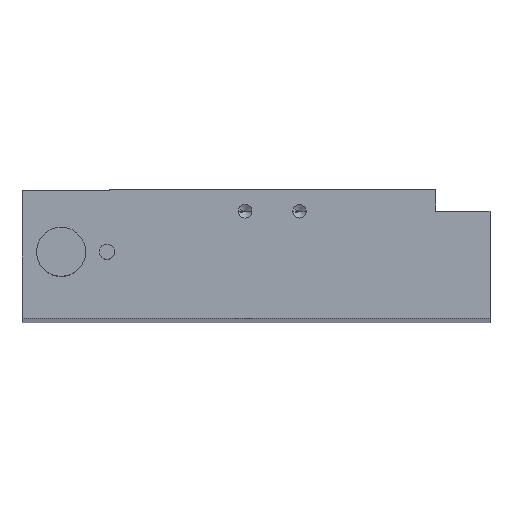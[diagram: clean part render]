
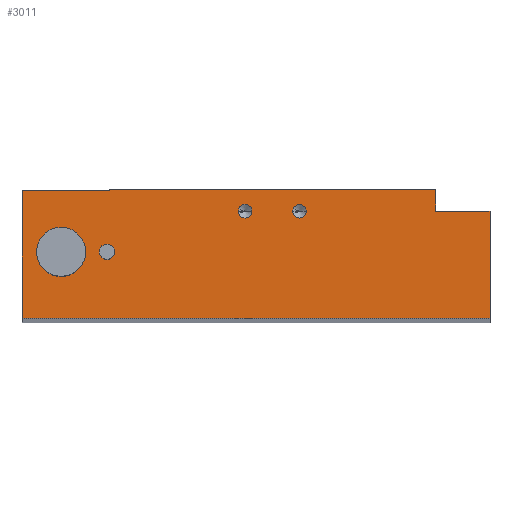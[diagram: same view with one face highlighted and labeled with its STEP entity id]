
A CAD part, top view. The second image highlights one B-rep face of the part: STEP entity #3011.
In plain terms, the highlighted planar face has unit normal (0, 0, 1).
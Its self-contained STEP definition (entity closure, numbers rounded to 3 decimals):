
#38 = EDGE_LOOP ( 'NONE', ( #1563, #1991 ) ) ;
#46 = EDGE_CURVE ( 'NONE', #2790, #998, #1480, .T. ) ;
#57 = CIRCLE ( 'NONE', #2403, 4.5 ) ;
#97 = ORIENTED_EDGE ( 'NONE', *, *, #1964, .F. ) ;
#110 = EDGE_CURVE ( 'NONE', #1118, #147, #1993, .T. ) ;
#147 = VERTEX_POINT ( 'NONE', #3044 ) ;
#148 = DIRECTION ( 'NONE',  ( 0., 0., 1. ) ) ;
#171 = FACE_BOUND ( 'NONE', #218, .T. ) ;
#187 = CARTESIAN_POINT ( 'NONE',  ( 690.381, 433.782, 0. ) ) ;
#218 = EDGE_LOOP ( 'NONE', ( #914, #450 ) ) ;
#223 = AXIS2_PLACEMENT_3D ( 'NONE', #2644, #396, #1908 ) ;
#233 = ORIENTED_EDGE ( 'NONE', *, *, #384, .F. ) ;
#253 = LINE ( 'NONE', #1694, #1591 ) ;
#277 = CARTESIAN_POINT ( 'NONE',  ( 727.031, 441.282, 0. ) ) ;
#285 = VECTOR ( 'NONE', #1691, 1000. ) ;
#347 = AXIS2_PLACEMENT_3D ( 'NONE', #2121, #394, #2583 ) ;
#356 = VERTEX_POINT ( 'NONE', #1272 ) ;
#377 = VECTOR ( 'NONE', #1632, 1000. ) ;
#384 = EDGE_CURVE ( 'NONE', #1886, #1006, #3208, .T. ) ;
#388 = CARTESIAN_POINT ( 'NONE',  ( 677.481, 433.782, 0. ) ) ;
#394 = DIRECTION ( 'NONE',  ( 0., 0., 1. ) ) ;
#396 = DIRECTION ( 'NONE',  ( 0., 0., 1. ) ) ;
#409 = CARTESIAN_POINT ( 'NONE',  ( 681.981, 433.782, 0. ) ) ;
#434 = EDGE_CURVE ( 'NONE', #2869, #869, #1064, .T. ) ;
#450 = ORIENTED_EDGE ( 'NONE', *, *, #2858, .F. ) ;
#468 = LINE ( 'NONE', #2453, #2383 ) ;
#478 = EDGE_CURVE ( 'NONE', #2417, #1118, #2890, .T. ) ;
#495 = DIRECTION ( 'NONE',  ( 1., 0., 0. ) ) ;
#507 = CARTESIAN_POINT ( 'NONE',  ( 674.781, 445.082, 0. ) ) ;
#543 = EDGE_LOOP ( 'NONE', ( #1549, #233 ) ) ;
#565 = EDGE_CURVE ( 'NONE', #762, #3090, #598, .T. ) ;
#586 = CARTESIAN_POINT ( 'NONE',  ( 674.781, 421.582, 0. ) ) ;
#598 = LINE ( 'NONE', #2753, #1268 ) ;
#622 = CARTESIAN_POINT ( 'NONE',  ( 674.781, 445.082, 0. ) ) ;
#641 = CARTESIAN_POINT ( 'NONE',  ( 750.781, 445.282, 0. ) ) ;
#653 = CARTESIAN_POINT ( 'NONE',  ( 690.781, 445.282, 0. ) ) ;
#655 = PLANE ( 'NONE',  #223 ) ;
#708 = CARTESIAN_POINT ( 'NONE',  ( 715.781, 441.282, 0. ) ) ;
#760 = DIRECTION ( 'NONE',  ( 1., 0., 0. ) ) ;
#762 = VERTEX_POINT ( 'NONE', #586 ) ;
#763 = FACE_OUTER_BOUND ( 'NONE', #2325, .T. ) ;
#827 = CARTESIAN_POINT ( 'NONE',  ( 681.981, 433.782, 0. ) ) ;
#834 = CARTESIAN_POINT ( 'NONE',  ( 750.781, 445.282, 0. ) ) ;
#835 = FACE_BOUND ( 'NONE', #2062, .T. ) ;
#869 = VERTEX_POINT ( 'NONE', #2157 ) ;
#912 = DIRECTION ( 'NONE',  ( 1., 0., 0. ) ) ;
#914 = ORIENTED_EDGE ( 'NONE', *, *, #1049, .F. ) ;
#930 = DIRECTION ( 'NONE',  ( 0., -1., 0. ) ) ;
#940 = LINE ( 'NONE', #981, #285 ) ;
#946 = DIRECTION ( 'NONE',  ( 0., 0., 1. ) ) ;
#966 = DIRECTION ( 'NONE',  ( 0., 0., 1. ) ) ;
#981 = CARTESIAN_POINT ( 'NONE',  ( 760.781, 441.282, 0. ) ) ;
#998 = VERTEX_POINT ( 'NONE', #2601 ) ;
#1006 = VERTEX_POINT ( 'NONE', #388 ) ;
#1049 = EDGE_CURVE ( 'NONE', #3078, #2927, #2278, .T. ) ;
#1061 = EDGE_CURVE ( 'NONE', #3090, #2173, #940, .T. ) ;
#1064 = CIRCLE ( 'NONE', #347, 1.25 ) ;
#1088 = ORIENTED_EDGE ( 'NONE', *, *, #2069, .T. ) ;
#1118 = VERTEX_POINT ( 'NONE', #641 ) ;
#1202 = CARTESIAN_POINT ( 'NONE',  ( 760.781, 441.282, 0. ) ) ;
#1204 = EDGE_CURVE ( 'NONE', #1006, #1886, #57, .T. ) ;
#1237 = AXIS2_PLACEMENT_3D ( 'NONE', #2388, #946, #2895 ) ;
#1243 = CARTESIAN_POINT ( 'NONE',  ( 750.781, 441.282, 0. ) ) ;
#1265 = AXIS2_PLACEMENT_3D ( 'NONE', #2971, #1483, #3219 ) ;
#1268 = VECTOR ( 'NONE', #760, 1000. ) ;
#1272 = CARTESIAN_POINT ( 'NONE',  ( 690.781, 445.09, 0. ) ) ;
#1314 = AXIS2_PLACEMENT_3D ( 'NONE', #708, #2395, #1441 ) ;
#1350 = ORIENTED_EDGE ( 'NONE', *, *, #1061, .T. ) ;
#1402 = CARTESIAN_POINT ( 'NONE',  ( 691.781, 433.782, 0. ) ) ;
#1428 = ORIENTED_EDGE ( 'NONE', *, *, #1624, .T. ) ;
#1441 = DIRECTION ( 'NONE',  ( 1., 0., 0. ) ) ;
#1466 = AXIS2_PLACEMENT_3D ( 'NONE', #187, #2227, #495 ) ;
#1480 = CIRCLE ( 'NONE', #1314, 1.25 ) ;
#1483 = DIRECTION ( 'NONE',  ( 0., 0., 1. ) ) ;
#1518 = FACE_BOUND ( 'NONE', #38, .T. ) ;
#1549 = ORIENTED_EDGE ( 'NONE', *, *, #1204, .F. ) ;
#1563 = ORIENTED_EDGE ( 'NONE', *, *, #434, .F. ) ;
#1572 = CARTESIAN_POINT ( 'NONE',  ( 717.031, 441.282, 0. ) ) ;
#1591 = VECTOR ( 'NONE', #3205, 1000. ) ;
#1624 = EDGE_CURVE ( 'NONE', #147, #356, #468, .T. ) ;
#1632 = DIRECTION ( 'NONE',  ( -1., 0., 0. ) ) ;
#1645 = DIRECTION ( 'NONE',  ( -1., 0., 0. ) ) ;
#1691 = DIRECTION ( 'NONE',  ( 0., 1., 0. ) ) ;
#1694 = CARTESIAN_POINT ( 'NONE',  ( 674.781, 445.082, 0. ) ) ;
#1716 = AXIS2_PLACEMENT_3D ( 'NONE', #2406, #148, #1914 ) ;
#1783 = VERTEX_POINT ( 'NONE', #507 ) ;
#1835 = ORIENTED_EDGE ( 'NONE', *, *, #478, .T. ) ;
#1886 = VERTEX_POINT ( 'NONE', #3048 ) ;
#1908 = DIRECTION ( 'NONE',  ( 1., 0., 0. ) ) ;
#1914 = DIRECTION ( 'NONE',  ( 1., 0., 0. ) ) ;
#1964 = EDGE_CURVE ( 'NONE', #998, #2790, #2256, .T. ) ;
#1991 = ORIENTED_EDGE ( 'NONE', *, *, #2382, .F. ) ;
#1993 = LINE ( 'NONE', #653, #3158 ) ;
#2024 = DIRECTION ( 'NONE',  ( 1., 0., 0. ) ) ;
#2028 = FACE_BOUND ( 'NONE', #543, .T. ) ;
#2062 = EDGE_LOOP ( 'NONE', ( #2246, #97 ) ) ;
#2069 = EDGE_CURVE ( 'NONE', #2173, #2417, #2296, .T. ) ;
#2121 = CARTESIAN_POINT ( 'NONE',  ( 725.781, 441.282, 0. ) ) ;
#2150 = DIRECTION ( 'NONE',  ( 0., 1., 0. ) ) ;
#2157 = CARTESIAN_POINT ( 'NONE',  ( 724.531, 441.282, 0. ) ) ;
#2173 = VERTEX_POINT ( 'NONE', #1202 ) ;
#2224 = VECTOR ( 'NONE', #2150, 1000. ) ;
#2227 = DIRECTION ( 'NONE',  ( 0., 0., 1. ) ) ;
#2246 = ORIENTED_EDGE ( 'NONE', *, *, #46, .F. ) ;
#2256 = CIRCLE ( 'NONE', #1716, 1.25 ) ;
#2269 = VECTOR ( 'NONE', #2362, 1000. ) ;
#2272 = CARTESIAN_POINT ( 'NONE',  ( 750.781, 441.282, 0. ) ) ;
#2278 = CIRCLE ( 'NONE', #1237, 1.4 ) ;
#2296 = LINE ( 'NONE', #2272, #377 ) ;
#2325 = EDGE_LOOP ( 'NONE', ( #1835, #2916, #1428, #2949, #2757, #3041, #1350, #1088 ) ) ;
#2362 = DIRECTION ( 'NONE',  ( -1., 0., 0. ) ) ;
#2382 = EDGE_CURVE ( 'NONE', #869, #2869, #2517, .T. ) ;
#2383 = VECTOR ( 'NONE', #930, 1000. ) ;
#2388 = CARTESIAN_POINT ( 'NONE',  ( 690.381, 433.782, 0. ) ) ;
#2395 = DIRECTION ( 'NONE',  ( 0., 0., 1. ) ) ;
#2403 = AXIS2_PLACEMENT_3D ( 'NONE', #409, #966, #2024 ) ;
#2406 = CARTESIAN_POINT ( 'NONE',  ( 715.781, 441.282, 0. ) ) ;
#2417 = VERTEX_POINT ( 'NONE', #1243 ) ;
#2453 = CARTESIAN_POINT ( 'NONE',  ( 690.781, 445.282, 0. ) ) ;
#2462 = EDGE_CURVE ( 'NONE', #356, #1783, #2929, .T. ) ;
#2517 = CIRCLE ( 'NONE', #1265, 1.25 ) ;
#2565 = CIRCLE ( 'NONE', #1466, 1.4 ) ;
#2583 = DIRECTION ( 'NONE',  ( 1., 0., 0. ) ) ;
#2601 = CARTESIAN_POINT ( 'NONE',  ( 714.531, 441.282, 0. ) ) ;
#2644 = CARTESIAN_POINT ( 'NONE',  ( 750.781, 441.282, 0. ) ) ;
#2753 = CARTESIAN_POINT ( 'NONE',  ( 674.781, 421.582, 0. ) ) ;
#2757 = ORIENTED_EDGE ( 'NONE', *, *, #2960, .T. ) ;
#2790 = VERTEX_POINT ( 'NONE', #1572 ) ;
#2824 = DIRECTION ( 'NONE',  ( 0., 0., 1. ) ) ;
#2858 = EDGE_CURVE ( 'NONE', #2927, #3078, #2565, .T. ) ;
#2869 = VERTEX_POINT ( 'NONE', #277 ) ;
#2890 = LINE ( 'NONE', #834, #2224 ) ;
#2895 = DIRECTION ( 'NONE',  ( 1., 0., 0. ) ) ;
#2916 = ORIENTED_EDGE ( 'NONE', *, *, #110, .T. ) ;
#2918 = AXIS2_PLACEMENT_3D ( 'NONE', #827, #2824, #912 ) ;
#2927 = VERTEX_POINT ( 'NONE', #1402 ) ;
#2929 = LINE ( 'NONE', #622, #2269 ) ;
#2949 = ORIENTED_EDGE ( 'NONE', *, *, #2462, .T. ) ;
#2960 = EDGE_CURVE ( 'NONE', #1783, #762, #253, .T. ) ;
#2971 = CARTESIAN_POINT ( 'NONE',  ( 725.781, 441.282, 0. ) ) ;
#3011 = ADVANCED_FACE ( 'NONE', ( #835, #1518, #171, #2028, #763 ), #655, .T. ) ;
#3041 = ORIENTED_EDGE ( 'NONE', *, *, #565, .T. ) ;
#3044 = CARTESIAN_POINT ( 'NONE',  ( 690.781, 445.282, 0. ) ) ;
#3048 = CARTESIAN_POINT ( 'NONE',  ( 686.481, 433.782, 0. ) ) ;
#3078 = VERTEX_POINT ( 'NONE', #3107 ) ;
#3090 = VERTEX_POINT ( 'NONE', #3115 ) ;
#3107 = CARTESIAN_POINT ( 'NONE',  ( 688.981, 433.782, 0. ) ) ;
#3115 = CARTESIAN_POINT ( 'NONE',  ( 760.781, 421.582, 0. ) ) ;
#3158 = VECTOR ( 'NONE', #1645, 1000. ) ;
#3205 = DIRECTION ( 'NONE',  ( 0., -1., 0. ) ) ;
#3208 = CIRCLE ( 'NONE', #2918, 4.5 ) ;
#3219 = DIRECTION ( 'NONE',  ( 1., 0., 0. ) ) ;
